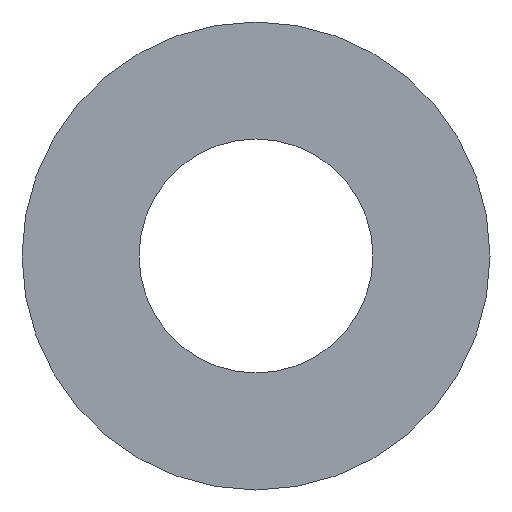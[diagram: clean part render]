
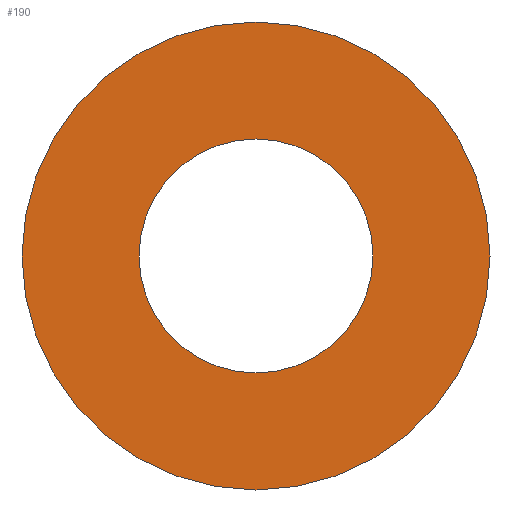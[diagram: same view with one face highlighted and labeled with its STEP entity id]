
A CAD part, front view. The second image highlights one B-rep face of the part: STEP entity #190.
In plain terms, the highlighted planar face has unit normal (0, -1, 0).
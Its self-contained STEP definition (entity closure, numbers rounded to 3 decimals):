
#31 = CYLINDRICAL_SURFACE('',#32,4.5);
#32 = AXIS2_PLACEMENT_3D('',#33,#34,#35);
#33 = CARTESIAN_POINT('',(0.,8.,0.));
#34 = DIRECTION('',(-0.,1.,0.));
#35 = DIRECTION('',(1.,0.,0.));
#56 = VERTEX_POINT('',#57);
#57 = CARTESIAN_POINT('',(4.5,6.,0.));
#78 = EDGE_CURVE('',#56,#56,#79,.T.);
#79 = SURFACE_CURVE('',#80,(#85,#92),.PCURVE_S1.);
#80 = CIRCLE('',#81,4.5);
#81 = AXIS2_PLACEMENT_3D('',#82,#83,#84);
#82 = CARTESIAN_POINT('',(0.,6.,0.));
#83 = DIRECTION('',(0.,-1.,0.));
#84 = DIRECTION('',(1.,0.,0.));
#85 = PCURVE('',#31,#86);
#86 = DEFINITIONAL_REPRESENTATION('',(#87),#91);
#87 = LINE('',#88,#89);
#88 = CARTESIAN_POINT('',(6.283,-2.));
#89 = VECTOR('',#90,1.);
#90 = DIRECTION('',(-1.,0.));
#91 = ( GEOMETRIC_REPRESENTATION_CONTEXT(2) 
PARAMETRIC_REPRESENTATION_CONTEXT() REPRESENTATION_CONTEXT('2D SPACE',''
  ) );
#92 = PCURVE('',#93,#98);
#93 = PLANE('',#94);
#94 = AXIS2_PLACEMENT_3D('',#95,#96,#97);
#95 = CARTESIAN_POINT('',(0.,6.,0.));
#96 = DIRECTION('',(0.,-1.,0.));
#97 = DIRECTION('',(1.,0.,0.));
#98 = DEFINITIONAL_REPRESENTATION('',(#99),#103);
#99 = CIRCLE('',#100,4.5);
#100 = AXIS2_PLACEMENT_2D('',#101,#102);
#101 = CARTESIAN_POINT('',(0.,0.));
#102 = DIRECTION('',(1.,0.));
#103 = ( GEOMETRIC_REPRESENTATION_CONTEXT(2) 
PARAMETRIC_REPRESENTATION_CONTEXT() REPRESENTATION_CONTEXT('2D SPACE',''
  ) );
#119 = CYLINDRICAL_SURFACE('',#120,2.25);
#120 = AXIS2_PLACEMENT_3D('',#121,#122,#123);
#121 = CARTESIAN_POINT('',(0.,8.,0.));
#122 = DIRECTION('',(-0.,1.,0.));
#123 = DIRECTION('',(1.,0.,0.));
#139 = VERTEX_POINT('',#140);
#140 = CARTESIAN_POINT('',(2.25,6.,0.));
#161 = EDGE_CURVE('',#139,#139,#162,.T.);
#162 = SURFACE_CURVE('',#163,(#168,#175),.PCURVE_S1.);
#163 = CIRCLE('',#164,2.25);
#164 = AXIS2_PLACEMENT_3D('',#165,#166,#167);
#165 = CARTESIAN_POINT('',(0.,6.,0.));
#166 = DIRECTION('',(0.,-1.,0.));
#167 = DIRECTION('',(1.,0.,0.));
#168 = PCURVE('',#119,#169);
#169 = DEFINITIONAL_REPRESENTATION('',(#170),#174);
#170 = LINE('',#171,#172);
#171 = CARTESIAN_POINT('',(6.283,-2.));
#172 = VECTOR('',#173,1.);
#173 = DIRECTION('',(-1.,0.));
#174 = ( GEOMETRIC_REPRESENTATION_CONTEXT(2) 
PARAMETRIC_REPRESENTATION_CONTEXT() REPRESENTATION_CONTEXT('2D SPACE',''
  ) );
#175 = PCURVE('',#93,#176);
#176 = DEFINITIONAL_REPRESENTATION('',(#177),#181);
#177 = CIRCLE('',#178,2.25);
#178 = AXIS2_PLACEMENT_2D('',#179,#180);
#179 = CARTESIAN_POINT('',(0.,0.));
#180 = DIRECTION('',(1.,0.));
#181 = ( GEOMETRIC_REPRESENTATION_CONTEXT(2) 
PARAMETRIC_REPRESENTATION_CONTEXT() REPRESENTATION_CONTEXT('2D SPACE',''
  ) );
#190 = ADVANCED_FACE('',(#191,#194),#93,.T.);
#191 = FACE_BOUND('',#192,.T.);
#192 = EDGE_LOOP('',(#193));
#193 = ORIENTED_EDGE('',*,*,#78,.T.);
#194 = FACE_BOUND('',#195,.T.);
#195 = EDGE_LOOP('',(#196));
#196 = ORIENTED_EDGE('',*,*,#161,.F.);
